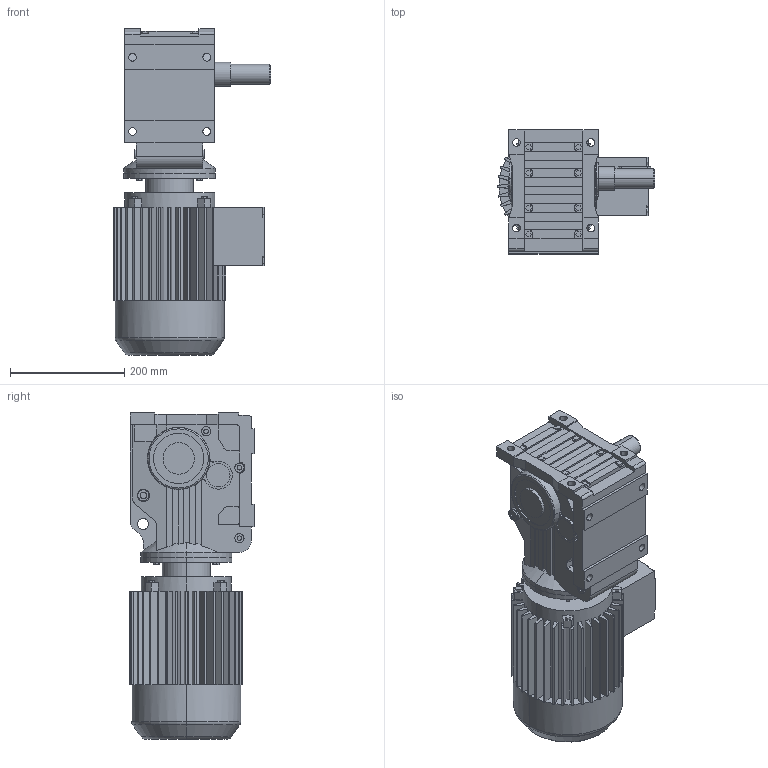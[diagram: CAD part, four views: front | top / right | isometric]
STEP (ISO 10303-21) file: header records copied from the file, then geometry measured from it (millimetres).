
FILE_DESCRIPTION(('Open CASCADE Model'),'2;1');
FILE_NAME('Open CASCADE Shape Model','2021-06-16T14:05:55',('Author'),( 'Open CASCADE'),'Open CASCADE STEP processor 6.3','Open CASCADE 6.3' ,'Unknown');
FILE_SCHEMA(('AUTOMOTIVE_DESIGN_CC2 { 1 2 10303 214 -1 1 5 4 }'));
Length unit declared in the file: millimetre
Products named in the file (4): 1_K57DV100M-A; K37‵157_57.step; 萇儂_160-DV100M-319-404-197-166.step; す瑩妗陑粣K_57.step
Assembly tree (3 placements, depth 2):
  1_K57DV100M-A
    K37‵157_57.step
    萇儂_160-DV100M-319-404-197-166.step
    す瑩妗陑粣K_57.step
Bounding box: 275.5 x 217.4 x 572 mm (x, y, z)
Volume: 14344024.3 mm3; surface area: 822741.1 mm2
Topology: 3 solids, 3 shells, 836 faces, 2204 edges, 1431 vertices
Faces by surface type: plane 582, cylinder 231, cone 15, torus 8
Entity records: 57462 total; most frequent: CARTESIAN_POINT 15581, DIRECTION 7217, ORIENTED_EDGE 4404, PCURVE 4404, DEFINITIONAL_REPRESENTATION 4404, LINE 3932, VECTOR 3932, EDGE_CURVE 2202
